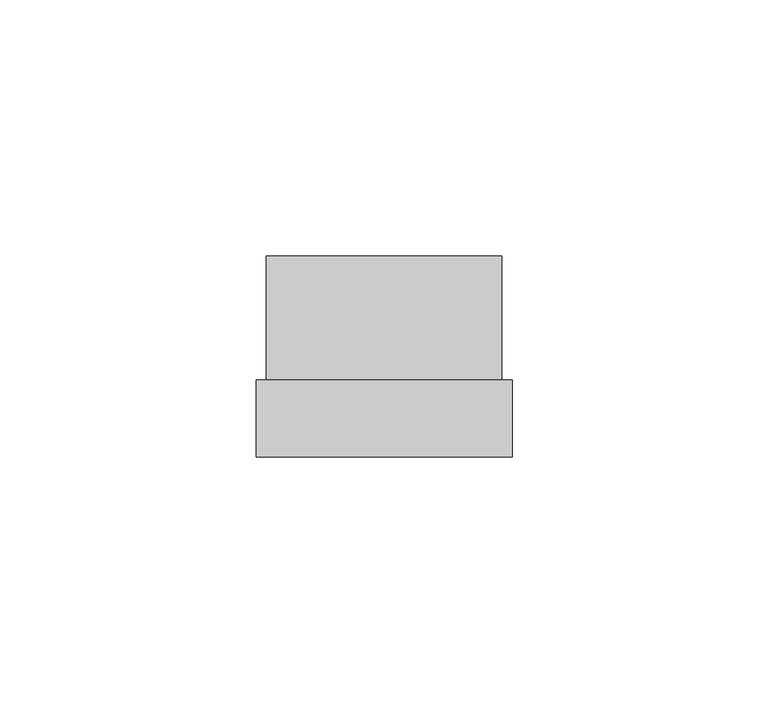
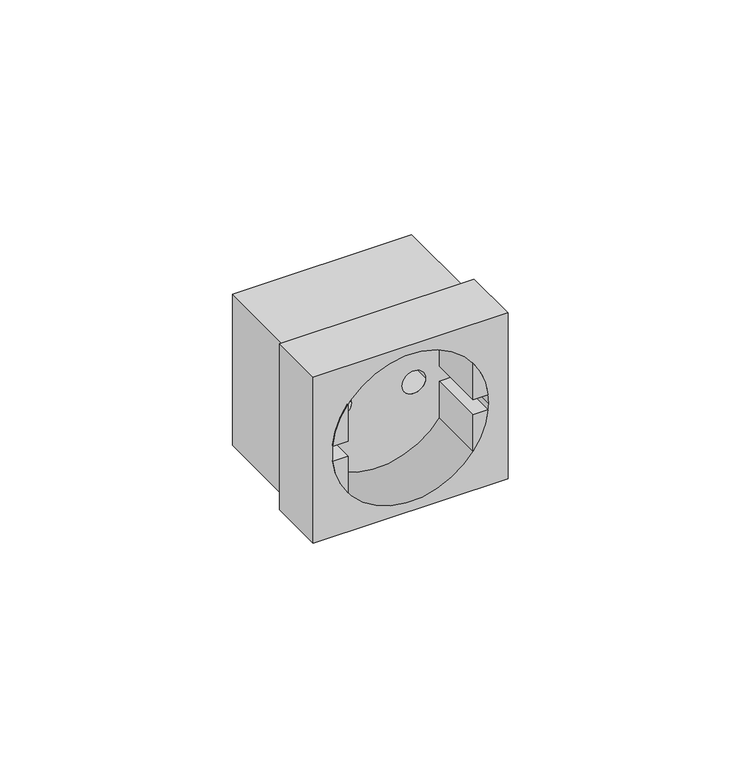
"""IFC4 building model written with IfcOpenShell, lengths in millimetres: proxy geometry, КНС_СиловыеЭлектрическиеРозеткиШтекерныеСоШторками_DKC : Белый."""

from ifc_helpers import new_model, si_unit, point, frame, origin, origin_2d, place, context, project, spatial, polyline, circle_curve, trimmed, segment, composite_curve, outline, extrude, source, transform, mapped, element, save
from ifc_brep_helpers import plane_surface, revolved_surface, advanced_brep


def electrical_fixtures_e52c2d28(model_context):
    return source(origin(), model_context, "Body", "SolidModel", [
        extrude(outline(composite_curve([segment(polyline([(2.0334595, -19.8963575), (2.0334595, -16.0533963), (11.9284729, -16.0533963)]), True, "CONTINUOUS"), segment(trimmed(circle_curve(origin_2d(), 20.0), [point((11.9284729, -16.0533963))], [point((2.0334595, -19.8963575))], False, "CARTESIAN"), True, "CONTINUOUS")], self_intersect=False)), frame((0.0, -39.3, 0.0), z_axis=(0.0, 1.0, 0.0), x_axis=(0.0, 0.0, 1.0)), (0.0, 0.0, 1.0), 15.0),
        extrude(outline(composite_curve([segment(polyline([(-2.0334595, -16.0533963), (-2.0334595, -19.8963575)]), True, "CONTINUOUS"), segment(trimmed(circle_curve(origin_2d(), 20.0), [point((-2.0334595, -19.8963575))], [point((-11.9284729, -16.0533963))], False, "CARTESIAN"), True, "CONTINUOUS"), segment(polyline([(-11.9284729, -16.0533963), (-2.0334595, -16.0533963)]), True, "CONTINUOUS")], self_intersect=False)), frame((0.0, -39.3, 0.0), z_axis=(0.0, 1.0, 0.0), x_axis=(0.0, 0.0, 1.0)), (0.0, 0.0, 1.0), 15.0),
        extrude(outline(composite_curve([segment(trimmed(circle_curve(origin_2d(), 20.0), [point((2.0334595, 19.8963575))], [point((11.9284729, 16.0533963))], False, "CARTESIAN"), True, "CONTINUOUS"), segment(polyline([(11.9284729, 16.0533963), (2.0334595, 16.0533963), (2.0334595, 19.8963575)]), True, "CONTINUOUS")], self_intersect=False)), frame((0.0, -39.3, 0.0), z_axis=(0.0, 1.0, 0.0), x_axis=(0.0, 0.0, 1.0)), (0.0, 0.0, 1.0), 15.0),
        extrude(outline(composite_curve([segment(polyline([(-2.0334595, 16.0533963), (-11.9284729, 16.0533963)]), True, "CONTINUOUS"), segment(trimmed(circle_curve(origin_2d(), 20.0), [point((-11.9284729, 16.0533963))], [point((-2.0334595, 19.8963575))], False, "CARTESIAN"), True, "CONTINUOUS"), segment(polyline([(-2.0334595, 19.8963575), (-2.0334595, 16.0533963)]), True, "CONTINUOUS")], self_intersect=False)), frame((0.0, -39.3, 0.0), z_axis=(0.0, 1.0, 0.0), x_axis=(0.0, 0.0, 1.0)), (0.0, 0.0, 1.0), 15.0),
        advanced_brep(
        [(19.9967242, -24.3, -0.3619702), (-9.1331197, -24.3, 17.7928672), (12.5564586, -24.3, 0.0), (6.4897194, -24.3, 0.0), (-6.4897194, -24.3, 0.0), (-12.5564586, -24.3, 0.0), (23.0, 0.0, 20.5), (23.0, 0.0, -20.5), (-23.0, 0.0, -20.5), (-23.0, 0.0, 20.5), (-23.0, -24.3, 20.5), (23.0, -24.3, 20.5), (-23.0, -24.3, -20.5), (23.0, -24.3, -20.5), (6.4897194, -10.5732864, 0.0), (12.5564586, -10.5732864, 0.0), (-12.5564586, -10.5732864, 0.0), (-6.4897194, -10.5732864, 0.0), (25.0, -39.3, 22.5), (-25.0, -39.3, 22.5), (-25.0, -39.3, -22.5), (25.0, -39.3, -22.5), (-9.1331197, -39.3, 17.7928672), (19.9967242, -39.3, -0.3619702), (25.0, -24.3, 22.5), (25.0, -24.3, -22.5), (-25.0, -24.3, -22.5), (-25.0, -24.3, 22.5)],
        [
            (0, 1, circle_curve(frame((0.0, -24.3, 0.0), z_axis=(0.0, -1.0, 0.0), x_axis=(1.0, 0.0, 0.0)), 20.0)),
            (1, 0, circle_curve(frame((0.0, -24.3, 0.0), z_axis=(0.0, -1.0, 0.0), x_axis=(1.0, 0.0, 0.0)), 20.0)),
            (2, 3, circle_curve(frame((9.523089, -24.3, 0.0), z_axis=(0.0, 1.0, 0.0), x_axis=(1.0, 0.0, 0.0)), 3.0333696)),
            (3, 2, circle_curve(frame((9.523089, -24.3, 0.0), z_axis=(0.0, 1.0, 0.0), x_axis=(1.0, 0.0, 0.0)), 3.0333696)),
            (4, 5, circle_curve(frame((-9.523089, -24.3, 0.0), z_axis=(0.0, 1.0, 0.0), x_axis=(1.0, 0.0, 0.0)), 3.0333696)),
            (5, 4, circle_curve(frame((-9.523089, -24.3, 0.0), z_axis=(0.0, 1.0, 0.0), x_axis=(1.0, 0.0, 0.0)), 3.0333696)),
            (6, 7),
            (7, 8),
            (8, 9),
            (9, 6),
            (9, 10),
            (10, 11),
            (11, 6),
            (8, 12),
            (12, 10),
            (7, 13),
            (13, 12),
            (11, 13),
            (14, 15, circle_curve(frame((9.523089, -10.5732864, 0.0), z_axis=(0.0, -1.0, 0.0), x_axis=(1.0, 0.0, 0.0)), 3.0333696)),
            (15, 14, circle_curve(frame((9.523089, -10.5732864, 0.0), z_axis=(0.0, -1.0, 0.0), x_axis=(1.0, 0.0, 0.0)), 3.0333696)),
            (16, 17, circle_curve(frame((-9.523089, -10.5732864, 0.0), z_axis=(0.0, -1.0, 0.0), x_axis=(1.0, 0.0, 0.0)), 3.0333696)),
            (17, 16, circle_curve(frame((-9.523089, -10.5732864, 0.0), z_axis=(0.0, -1.0, 0.0), x_axis=(1.0, 0.0, 0.0)), 3.0333696)),
            (14, 3),
            (2, 15),
            (16, 5),
            (4, 17),
            (18, 19),
            (19, 20),
            (20, 21),
            (21, 18),
            (22, 23, circle_curve(frame((0.0, -39.3, 0.0), z_axis=(0.0, 1.0, 0.0), x_axis=(1.0, 0.0, 0.0)), 20.0)),
            (23, 22, circle_curve(frame((0.0, -39.3, 0.0), z_axis=(0.0, 1.0, 0.0), x_axis=(1.0, 0.0, 0.0)), 20.0)),
            (24, 25),
            (25, 26),
            (26, 27),
            (27, 24),
            (18, 24),
            (27, 19),
            (26, 20),
            (25, 21),
            (22, 1),
            (0, 23),
        ],
        [
            plane_surface(frame((-23.0, -24.3, 20.5), z_axis=(0.0, -1.0, 0.0), x_axis=(-1.0, 0.0, 0.0))),
            plane_surface(frame((-23.0, 0.0, 20.5), z_axis=(0.0, 1.0, 0.0), x_axis=(1.0, 0.0, 0.0))),
            plane_surface(frame((23.0, -24.3, 20.5), z_axis=(0.0, 0.0, 1.0), x_axis=(0.0, 1.0, 0.0))),
            plane_surface(frame((-23.0, -24.3, 20.5), z_axis=(-1.0, 0.0, 0.0), x_axis=(0.0, 1.0, 0.0))),
            plane_surface(frame((-23.0, -24.3, -20.5), z_axis=(0.0, 0.0, -1.0), x_axis=(0.0, 1.0, 0.0))),
            plane_surface(frame((23.0, -24.3, -20.5), z_axis=(1.0, 0.0, 0.0), x_axis=(0.0, 1.0, 0.0))),
            plane_surface(frame((12.5564586, -10.5732864, 0.0), z_axis=(0.0, -1.0, 0.0), x_axis=(0.0, 0.0, -1.0))),
            revolved_surface(polyline([(12.556458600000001, -24.3, 0.0), (12.556458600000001, -10.5732864, 0.0)]), (9.523089, -10.5732864, 0.0), (0.0, -1.0, 0.0)),
            revolved_surface(polyline([(-6.4897194, -24.3, 0.0), (-6.4897194, -10.5732864, 0.0)]), (-9.523089, 0.0, 0.0), (0.0, -1.0, 0.0)),
            plane_surface(frame((-25.0, -39.3, 22.5), z_axis=(0.0, -1.0, 0.0), x_axis=(-1.0, 0.0, 0.0))),
            plane_surface(frame((-25.0, -24.3, 22.5), z_axis=(0.0, 1.0, 0.0), x_axis=(1.0, 0.0, 0.0))),
            plane_surface(frame((25.0, -39.3, 22.5), z_axis=(0.0, 0.0, 1.0), x_axis=(0.0, 1.0, 0.0))),
            plane_surface(frame((-25.0, -39.3, 22.5), z_axis=(-1.0, 0.0, 0.0), x_axis=(0.0, 1.0, 0.0))),
            plane_surface(frame((-25.0, -39.3, -22.5), z_axis=(0.0, 0.0, -1.0), x_axis=(0.0, 1.0, 0.0))),
            plane_surface(frame((25.0, -39.3, -22.5), z_axis=(1.0, 0.0, 0.0), x_axis=(0.0, 1.0, 0.0))),
            revolved_surface(polyline([(20.0, -24.3, 0.0), (20.0, -39.3, 0.0)]), (0.0, 0.0, 0.0), (0.0, 1.0, 0.0)),
        ],
        [
            (0, [[1, 2], [3, 4], [5, 6]]),
            (1, [[7, 8, 9, 10]]),
            (2, [[-10, 11, 12, 13]]),
            (3, [[-9, 14, 15, -11]]),
            (4, [[-8, 16, 17, -14]]),
            (5, [[-7, -13, 18, -16]]),
            (6, [[19, 20]]),
            (6, [[21, 22]]),
            (7, [[-19, 23, -3, 24]]),
            (7, [[-20, -24, -4, -23]]),
            (8, [[-21, 25, -5, 26]]),
            (8, [[-22, -26, -6, -25]]),
            (9, [[27, 28, 29, 30], [31, 32]]),
            (10, [[33, 34, 35, 36], [-12, -15, -17, -18]]),
            (11, [[-27, 37, -36, 38]]),
            (12, [[-28, -38, -35, 39]]),
            (13, [[-29, -39, -34, 40]]),
            (14, [[-30, -40, -33, -37]]),
            (15, [[-31, 41, -1, 42]]),
            (15, [[-32, -42, -2, -41]]),
        ],
    ),
    ])


if __name__ == "__main__":
    model = new_model("IFC4")
    model_context = context("Model", 3, world=origin())
    ifc_project = project(units=[si_unit("LENGTHUNIT", "METRE", prefix="MILLI")], contexts=[model_context])
    site = spatial("IfcSite", under=ifc_project)
    building = spatial("IfcBuilding", under=site)
    placement = place(None, origin())
    electrical_fixtures_shape = electrical_fixtures_e52c2d28(model_context)
    element("IfcBuildingElementProxy", 1, Name="КНС_СиловыеЭлектрическиеРозеткиШтекерныеСоШторками_DKC : Белый", ObjectType="КНС_СиловыеЭлектрическиеРозеткиШтекерныеСоШторками_DKC : Белый", at=placement, inside=building, context=model_context, shape_type="MappedRepresentation", body=[
        mapped(electrical_fixtures_shape, transform((0.0, 0.0, 0.0), x_axis=(1.0, 0.0, 0.0), y_axis=(0.0, 1.0, 0.0), z_axis=(0.0, 0.0, 1.0))),
    ])
    save(model, "model.ifc")
